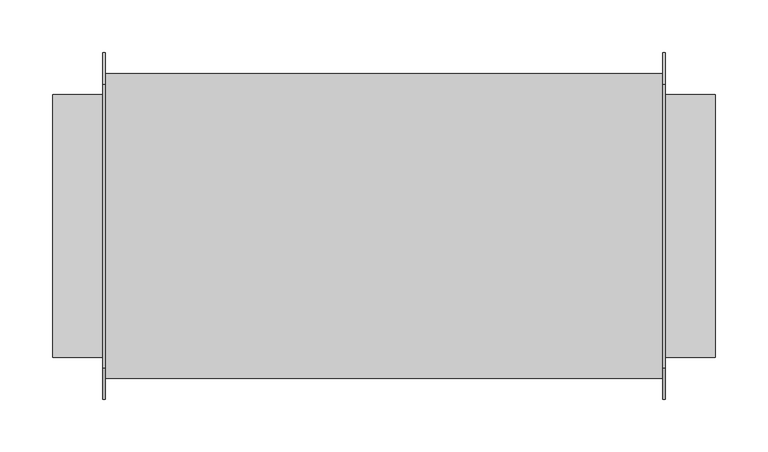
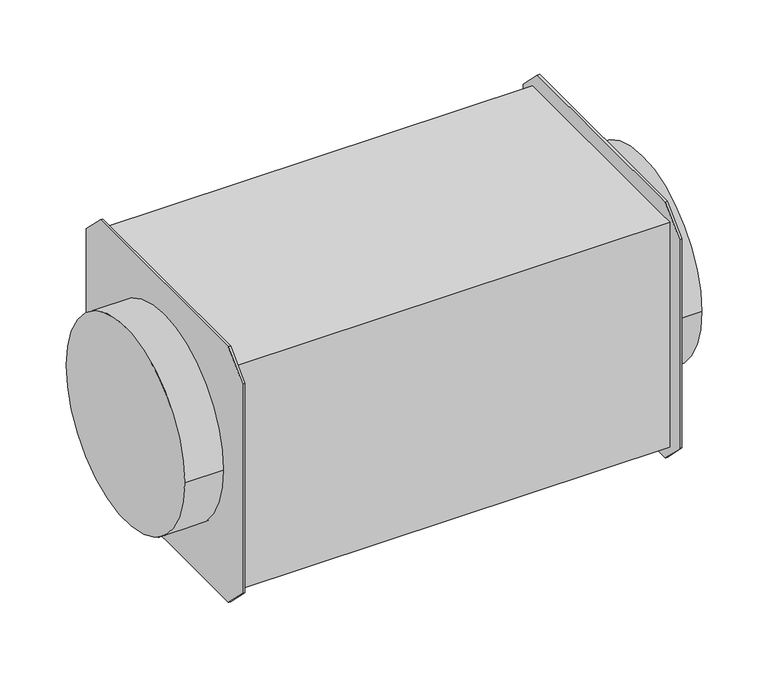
"""IFC4 building model written with IfcOpenShell, lengths in millimetres: unitary equipment geometry, 140_VAV_変風量ユニット_丸ダクト用 : 変風量ユニット_丸ダクト用."""

from ifc_helpers import new_model, si_unit, point, frame, origin, origin_2d, place, context, project, spatial, polyline, circle_curve, trimmed, segment, composite_curve, outline, extrude, source, transform, mapped, element, save


def unitary_equipment_b50bc24b(model_context):
    return source(origin(), model_context, "Body", "SweptSolid", [
        extrude(outline(polyline([(-135.0, -165.0), (-165.0, -135.0), (-165.0, 135.0), (-135.0, 165.0), (135.0, 165.0), (165.0, 135.0), (165.0, -135.0), (135.0, -165.0), (-135.0, -165.0)])), frame((265.0, 0.0, 0.0), z_axis=(1.0, 0.0, 0.0), x_axis=(0.0, 1.0, 0.0)), (0.0, 0.0, 1.0), 2.5),
        extrude(outline(polyline([(-135.0, -165.0), (-165.0, -135.0), (-165.0, 135.0), (-135.0, 165.0), (135.0, 165.0), (165.0, 135.0), (165.0, -135.0), (135.0, -165.0), (-135.0, -165.0)])), frame((-267.5, 0.0, 0.0), z_axis=(1.0, 0.0, 0.0), x_axis=(0.0, 1.0, 0.0)), (0.0, 0.0, 1.0), 2.5),
        extrude(outline(composite_curve([segment(trimmed(circle_curve(origin_2d(), 125.0), [point((-125.0, 0.0))], [point((125.0, 0.0))], False, "CARTESIAN"), True, "CONTINUOUS"), segment(trimmed(circle_curve(origin_2d(), 125.0), [point((125.0, 0.0))], [point((-125.0, 0.0))], False, "CARTESIAN"), True, "CONTINUOUS")], self_intersect=False)), frame((265.0, 0.0, 0.0), z_axis=(1.0, 0.0, 0.0), x_axis=(0.0, 1.0, 0.0)), (0.0, 0.0, 1.0), 50.0),
        extrude(outline(composite_curve([segment(trimmed(circle_curve(origin_2d(), 125.0), [point((-125.0, 0.0))], [point((125.0, 0.0))], False, "CARTESIAN"), True, "CONTINUOUS"), segment(trimmed(circle_curve(origin_2d(), 125.0), [point((125.0, 0.0))], [point((-125.0, 0.0))], False, "CARTESIAN"), True, "CONTINUOUS")], self_intersect=False)), frame((-315.0, 0.0, 0.0), z_axis=(1.0, 0.0, 0.0), x_axis=(0.0, 1.0, 0.0)), (0.0, 0.0, 1.0), 50.0),
        extrude(outline(polyline([(265.0, 145.0), (265.0, -145.0), (-265.0, -145.0), (-265.0, 145.0), (265.0, 145.0)])), frame((0.0, 0.0, -145.0), z_axis=(0.0, 0.0, 1.0), x_axis=(1.0, 0.0, 0.0)), (0.0, 0.0, 1.0), 290.0),
    ])


if __name__ == "__main__":
    model = new_model("IFC4")
    model_context = context("Model", 3, world=origin())
    ifc_project = project(units=[si_unit("LENGTHUNIT", "METRE", prefix="MILLI")], contexts=[model_context])
    site = spatial("IfcSite", under=ifc_project)
    building = spatial("IfcBuilding", under=site)
    placement = place(None, origin())
    unitary_equipment_shape = unitary_equipment_b50bc24b(model_context)
    element("IfcUnitaryEquipment", 1, ObjectType="140_VAV_変風量ユニット_丸ダクト用 : 変風量ユニット_丸ダクト用", at=placement, inside=building, context=model_context, shape_type="MappedRepresentation", body=[
        mapped(unitary_equipment_shape, transform((0.0, 0.0, 0.0), x_axis=(1.0, 0.0, 0.0), y_axis=(0.0, 1.0, 0.0), z_axis=(0.0, 0.0, 1.0))),
    ])
    save(model, "model.ifc")
